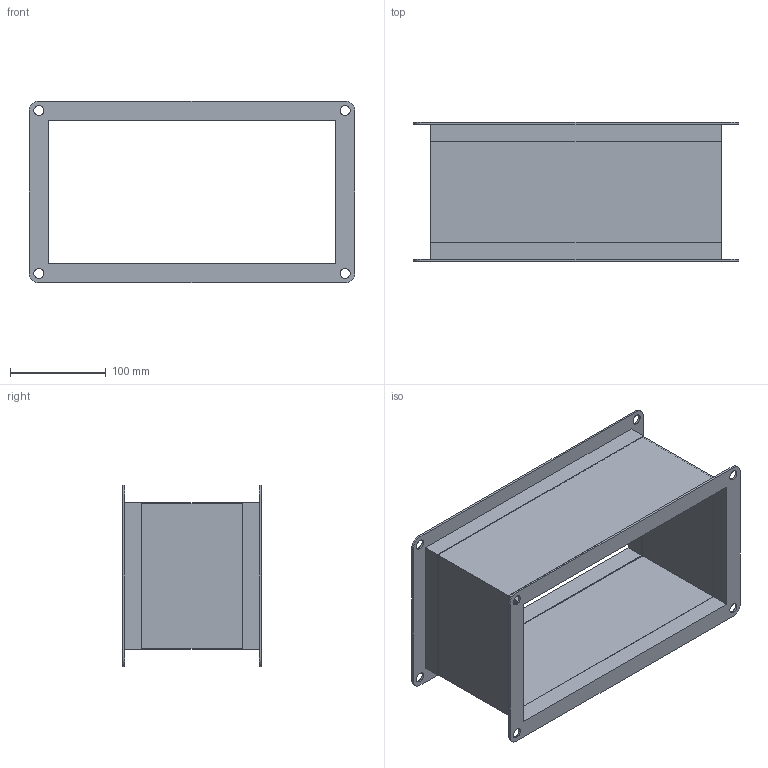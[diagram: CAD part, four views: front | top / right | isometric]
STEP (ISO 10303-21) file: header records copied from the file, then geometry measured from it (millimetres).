
FILE_DESCRIPTION(/* description */ (''),/* implementation_level */ '2;1');
FILE_NAME(/* name */ 'Z:\Output\VS_30-15-06928-001.stp',/* time_stamp */ '2017-11-10T11:33:10+01:00',/* author */ ('Engineering1'),/* organization */ (''),/* preprocessor_version */ 'ST-DEVELOPER v16.5',/* originating_system */ 'Autodesk Inventor 2017',/* authorisation */ '');
FILE_SCHEMA (('AUTOMOTIVE_DESIGN { 1 0 10303 214 3 1 1 }'));
Length unit declared in the file: millimetre
Products named in the file (1): VS-1
Bounding box: 340 x 145 x 190 mm (x, y, z)
Volume: 237387.2 mm3; surface area: 339210.3 mm2
Topology: 1 solids, 1 shells, 56 faces, 148 edges, 100 vertices
Faces by surface type: plane 40, cylinder 16
Full cylindrical faces by diameter (mm): 10.5 x8
Entity records: 1741 total; most frequent: CARTESIAN_POINT 289, DIRECTION 282, ORIENTED_EDGE 272, EDGE_CURVE 136, LINE 104, VECTOR 104, VERTEX_POINT 96, AXIS2_PLACEMENT_3D 89
